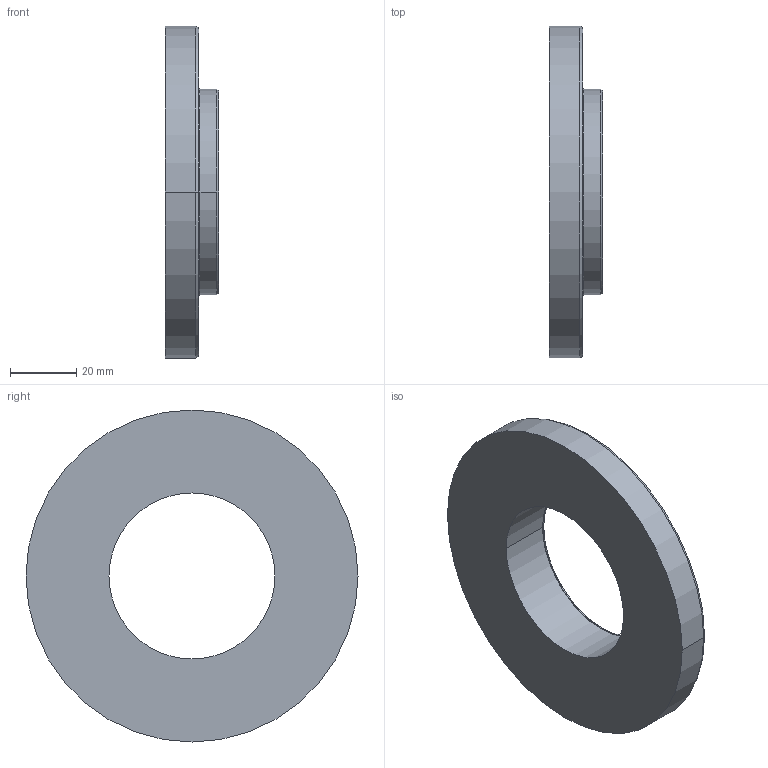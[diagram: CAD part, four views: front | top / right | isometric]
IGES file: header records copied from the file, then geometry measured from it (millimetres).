
Start section:  PTC IGES file: t_axis_gp20hl.igs
Global section: file name: t_axis_gp20hl.igs; native system: Creo Parametric by Parametric Technology Corporation; preprocessor: 2015030; author: ip-naka; organization: Unknown; date: 20190410.110642; units: millimetre
Bounding box: 16 x 100 x 100 mm (x, y, z)
Volume: 64605.9 mm3; surface area: 19077.4 mm2
Topology: 1 solids, 1 shells, 50 faces, 102 edges, 65 vertices
Faces by surface type: revolution 34, bspline 16
